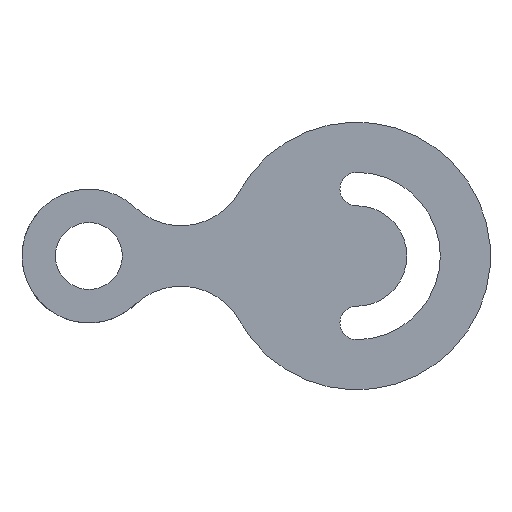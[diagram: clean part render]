
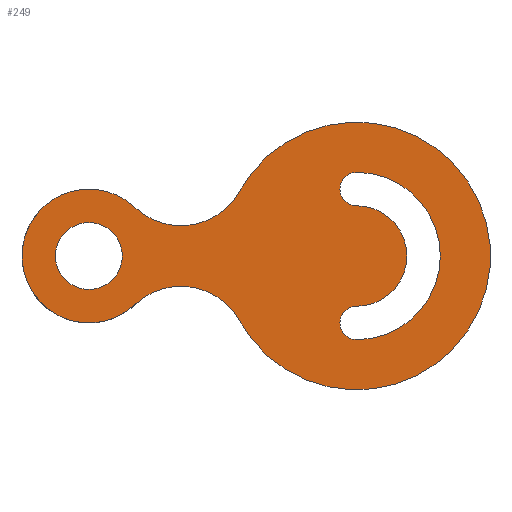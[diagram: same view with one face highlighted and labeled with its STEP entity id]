
A CAD part, front view. The second image highlights one B-rep face of the part: STEP entity #249.
In plain terms, the highlighted planar face has unit normal (0, -1, 0).
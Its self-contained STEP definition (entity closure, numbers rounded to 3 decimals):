
#48=FACE_BOUND('',#78,.T.);
#49=FACE_BOUND('',#79,.T.);
#62=FACE_OUTER_BOUND('',#77,.T.);
#77=EDGE_LOOP('',(#223,#224,#225,#226,#227));
#78=EDGE_LOOP('',(#228));
#79=EDGE_LOOP('',(#229,#230,#231,#232));
#94=CIRCLE('',#288,5.);
#95=CIRCLE('',#290,25.);
#96=CIRCLE('',#292,5.);
#97=CIRCLE('',#294,15.);
#98=CIRCLE('',#296,10.);
#99=CIRCLE('',#298,40.);
#100=CIRCLE('',#300,20.);
#101=CIRCLE('',#302,20.);
#102=CIRCLE('',#303,20.);
#103=CIRCLE('',#305,20.);
#118=VERTEX_POINT('',#427);
#119=VERTEX_POINT('',#429);
#120=VERTEX_POINT('',#433);
#121=VERTEX_POINT('',#437);
#122=VERTEX_POINT('',#444);
#123=VERTEX_POINT('',#448);
#124=VERTEX_POINT('',#450);
#125=VERTEX_POINT('',#454);
#126=VERTEX_POINT('',#458);
#127=VERTEX_POINT('',#461);
#143=EDGE_CURVE('',#119,#118,#94,.T.);
#145=EDGE_CURVE('',#120,#119,#95,.T.);
#147=EDGE_CURVE('',#121,#120,#96,.T.);
#149=EDGE_CURVE('',#118,#121,#97,.T.);
#151=EDGE_CURVE('',#122,#122,#98,.T.);
#154=EDGE_CURVE('',#124,#123,#99,.T.);
#156=EDGE_CURVE('',#125,#124,#100,.T.);
#158=EDGE_CURVE('',#126,#125,#101,.T.);
#160=EDGE_CURVE('',#127,#126,#102,.T.);
#162=EDGE_CURVE('',#123,#127,#103,.T.);
#223=ORIENTED_EDGE('',*,*,#162,.T.);
#224=ORIENTED_EDGE('',*,*,#160,.T.);
#225=ORIENTED_EDGE('',*,*,#158,.T.);
#226=ORIENTED_EDGE('',*,*,#156,.T.);
#227=ORIENTED_EDGE('',*,*,#154,.T.);
#228=ORIENTED_EDGE('',*,*,#151,.T.);
#229=ORIENTED_EDGE('',*,*,#149,.T.);
#230=ORIENTED_EDGE('',*,*,#147,.T.);
#231=ORIENTED_EDGE('',*,*,#145,.T.);
#232=ORIENTED_EDGE('',*,*,#143,.T.);
#236=PLANE('',#306);
#249=ADVANCED_FACE('',(#62,#48,#49),#236,.F.);
#288=AXIS2_PLACEMENT_3D('',#430,#346,#347);
#290=AXIS2_PLACEMENT_3D('',#434,#351,#352);
#292=AXIS2_PLACEMENT_3D('',#438,#356,#357);
#294=AXIS2_PLACEMENT_3D('',#441,#361,#362);
#296=AXIS2_PLACEMENT_3D('',#445,#366,#367);
#298=AXIS2_PLACEMENT_3D('',#451,#372,#373);
#300=AXIS2_PLACEMENT_3D('',#455,#377,#378);
#302=AXIS2_PLACEMENT_3D('',#459,#382,#383);
#303=AXIS2_PLACEMENT_3D('',#462,#385,#386);
#305=AXIS2_PLACEMENT_3D('',#465,#390,#391);
#306=AXIS2_PLACEMENT_3D('',#466,#392,#393);
#346=DIRECTION('center_axis',(0.,1.,0.));
#347=DIRECTION('ref_axis',(0.,0.,1.));
#351=DIRECTION('center_axis',(0.,1.,0.));
#352=DIRECTION('ref_axis',(0.,0.,-1.));
#356=DIRECTION('center_axis',(0.,1.,0.));
#357=DIRECTION('ref_axis',(0.,0.,1.));
#361=DIRECTION('center_axis',(0.,-1.,0.));
#362=DIRECTION('ref_axis',(0.,0.,1.));
#366=DIRECTION('center_axis',(0.,1.,0.));
#367=DIRECTION('ref_axis',(1.,0.,0.));
#372=DIRECTION('center_axis',(0.,-1.,0.));
#373=DIRECTION('ref_axis',(-0.875,0.,0.484));
#377=DIRECTION('center_axis',(0.,1.,0.));
#378=DIRECTION('ref_axis',(0.688,0.,-0.726));
#382=DIRECTION('center_axis',(0.,-1.,0.));
#383=DIRECTION('ref_axis',(0.688,0.,-0.726));
#385=DIRECTION('center_axis',(0.,-1.,0.));
#386=DIRECTION('ref_axis',(0.688,0.,-0.726));
#390=DIRECTION('center_axis',(0.,1.,0.));
#391=DIRECTION('ref_axis',(-0.875,0.,0.484));
#392=DIRECTION('center_axis',(0.,1.,0.));
#393=DIRECTION('ref_axis',(0.,0.,1.));
#427=CARTESIAN_POINT('',(0.,-10.,-15.));
#429=CARTESIAN_POINT('',(0.,-10.,-25.));
#430=CARTESIAN_POINT('Origin',(0.,-10.,-20.));
#433=CARTESIAN_POINT('',(0.,-10.,25.));
#434=CARTESIAN_POINT('Origin',(0.,-10.,0.));
#437=CARTESIAN_POINT('',(0.,-10.,15.));
#438=CARTESIAN_POINT('Origin',(0.,-10.,20.));
#441=CARTESIAN_POINT('Origin',(0.,-10.,0.));
#444=CARTESIAN_POINT('',(-90.,-10.,0.));
#445=CARTESIAN_POINT('Origin',(-80.,-10.,0.));
#448=CARTESIAN_POINT('',(-35.,-10.,19.365));
#450=CARTESIAN_POINT('',(-35.,-10.,-19.365));
#451=CARTESIAN_POINT('Origin',(0.,-10.,0.));
#454=CARTESIAN_POINT('',(-66.25,-10.,-14.524));
#455=CARTESIAN_POINT('Origin',(-52.5,-10.,-29.047));
#458=CARTESIAN_POINT('',(-93.75,-10.,14.524));
#459=CARTESIAN_POINT('Origin',(-80.,-10.,0.));
#461=CARTESIAN_POINT('',(-66.25,-10.,14.524));
#462=CARTESIAN_POINT('Origin',(-80.,-10.,0.));
#465=CARTESIAN_POINT('Origin',(-52.5,-10.,29.047));
#466=CARTESIAN_POINT('Origin',(-30.,-10.,0.));
